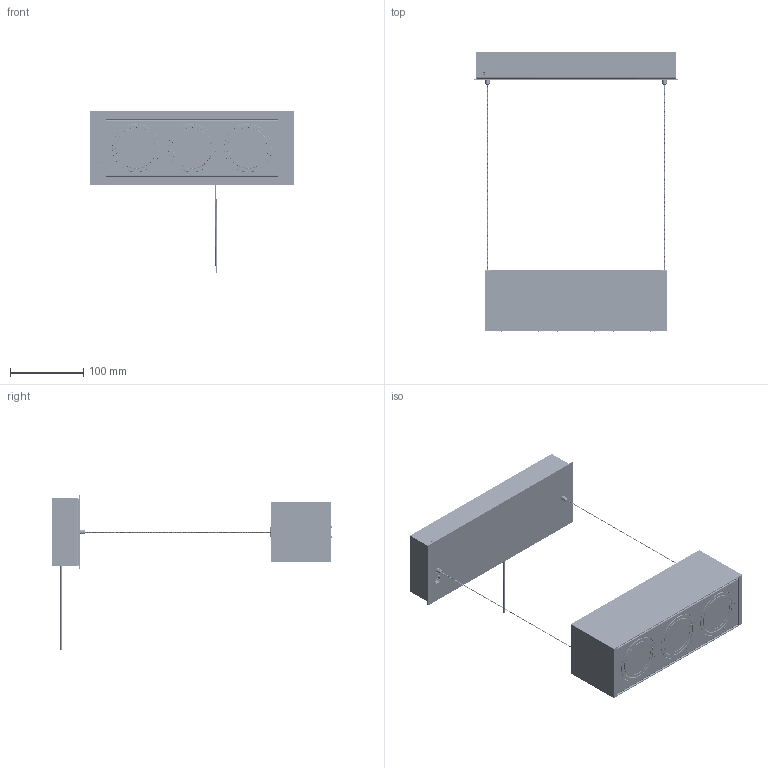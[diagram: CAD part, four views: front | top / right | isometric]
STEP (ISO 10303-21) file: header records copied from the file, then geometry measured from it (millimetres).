
FILE_DESCRIPTION (( 'STEP AP214' ), '1' );
FILE_NAME ('800295.STEP', '2023-12-11T18:44:20', ( '' ), ( '' ), 'SwSTEP 2.0', 'SolidWorks 2020', '' );
FILE_SCHEMA (( 'AUTOMOTIVE_DESIGN' ));
Length unit declared in the file: millimetre
Products named in the file (85): NW-M3_95610A130; MDR-R1_RevA1; IMPORTED1_1_1_2_1_1_1_1_1_2_1.stp; 530405; 530406; 320033; 740034_CURVED; 821077; IP-M3X10FHP_91420A120; 430041; IPBSW1; CSS-MGR-SE-1420-EXT; 430034-IPBSN-10mm X 1.0 X 19_5 THREAD LENGTH; LEM_880064; DPK_880065-3; IP-8-32KEPNUT_90675A009; PEM-STUD-FH-0420-6ZI_93580A563; SCR-M3X12PHP_92005A118; 4.STEP; 290106; 580501; NFCWL036B-V4_3D.STEP; 1.STEP; TLW-M3ETLW_91120A120; 320033(1-1098-M)_K3 updated drawing 20201203.stp; RIVET-3MM-STEEL; 420016_90134A032; 580502; NFCWL036B-V4_3D; 100477; 440062; FA-PIN-M3X12_91595A112; 800295; IP-438-48712; 3.STEP; IP-438-49222; 530409; RING TERMINAL NON INSULATED; 200013; 440055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
Assembly tree (194 placements, depth 6):
  800295
    DPK_880065-3
      821080
        890814
          580499
          PEM-STUD-FH-0420-6ZI_93580A563  x2
        RIVET-3MM-STEEL
        TLW-M3ETLW_91120A120
        FW-M3FWSS_91166A210
        740034_CURVED
          WIRE 6 INCH 18 AWG GREEN
          RING TERMINAL NON INSULATED
      MDR-R1_RevA1  x3
      IP-M3-5PHP_90116A147  x7
      IP-1-4-CLAMP
      IP-M3X9LDFW_91100A120  x2
      CSS-MGR-SE-1420-EXT  x2
      IP-3-8-CLAMP_8876T38
    900391_FINISHED 
      471228_FINISHED
      471232_FINISHED
    1X3 Cylinder Assembly
      230226_9.25
      580502  x4
      530406
      530405
      430034-IPBSN-10mm X 1.0 X 19_5 THREAD LENGTH  x3
      580307  x3
      440055  x6
      IPBSW1  x3
      420016_90134A032  x3
      530409
      210-00001  x2
      580501  x2
      IP-6-32X3-16FHP_90471A431  x4
      IP-M3X8PHP_92005A118  x8
      FA-PIN-M3X12_91595A112  x8
      IP-8-32KEPNUT_90675A009  x2
      FA-SCR-8-32X1-2-WELD  x2
      LEM_880064
        821077
          100475
          100476
          NW-M3_95610A130
          SCR-M3X12PHP_92005A118
          430049_compressed
          440062
          430041  x2
        100477
        100478
        200013
        IP-M2-5X3CUPSSSS_92015A094
        290106
        IP-M2-5X10FHP_91420A020  x4
        320033
          320033(1-1098-M)_K3 updated drawing 20201203.stp
            IMPORTED1_1_1_2_1_1_1_1_1_2_1.stp
            48.stp
        SCR-M3X5WHP  x2
        IP-438-49222
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Bounding box: 279.2 x 382.83 x 219.55 mm (x, y, z)
Volume: 734602.9 mm3; surface area: 782404.5 mm2
Topology: 207 solids, 213 shells, 20205 faces, 52671 edges, 32428 vertices
Faces by surface type: cylinder 5896, bspline 5546, plane 4164, torus 2029, cone 1827, sphere 743
Entity records: 342037 total; most frequent: CARTESIAN_POINT 173945, ORIENTED_EDGE 36458, DIRECTION 29185, EDGE_CURVE 18229, VERTEX_POINT 11323, AXIS2_PLACEMENT_3D 11228, EDGE_LOOP 7494, ADVANCED_FACE 7083
